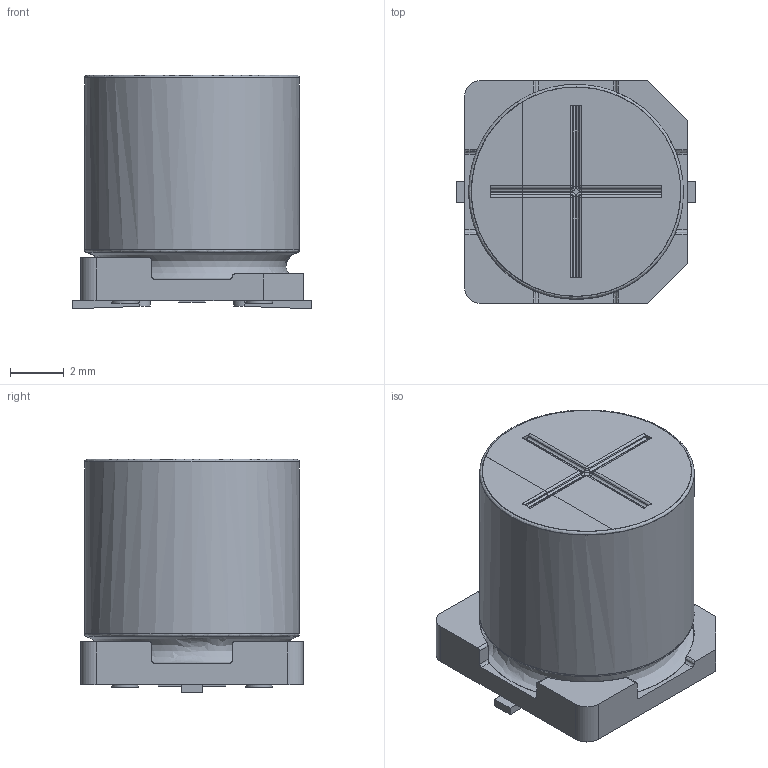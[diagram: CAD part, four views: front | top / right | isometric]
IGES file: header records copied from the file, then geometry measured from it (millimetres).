
Start section: JAMA-IS VERSION  1.0
Bounding box: 8.9 x 8.3 x 8.7 mm (x, y, z)
Surface area: 511 mm2 (no closed solid volume)
Topology: 0 solids, 0 shells, 132 faces, 1288 edges, 1270 vertices
Faces by surface type: bspline 132
